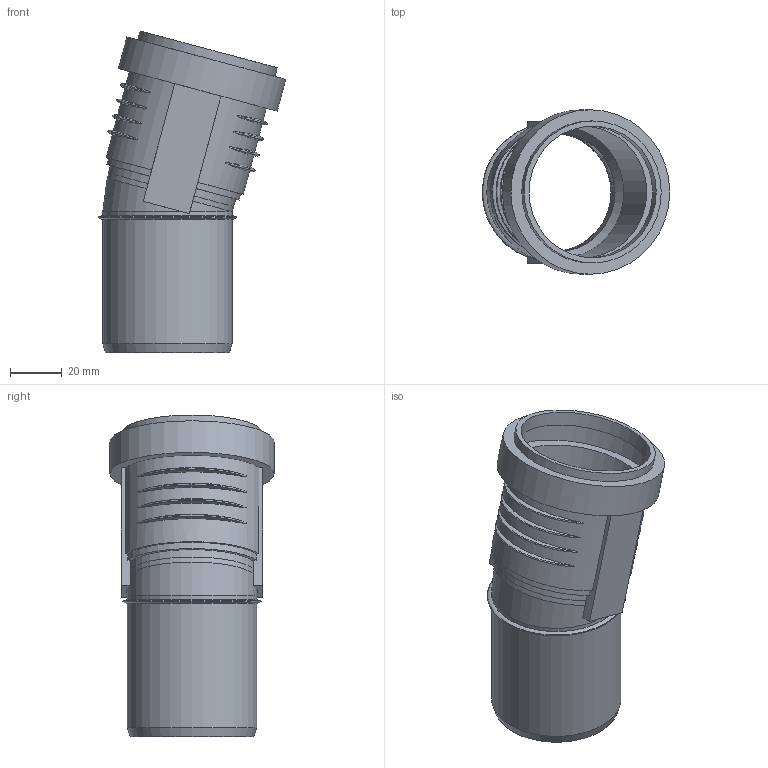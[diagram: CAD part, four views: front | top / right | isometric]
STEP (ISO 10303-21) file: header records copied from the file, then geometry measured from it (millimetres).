
FILE_DESCRIPTION(/* description */ (''),/* implementation_level */ '2;1');
FILE_NAME(/* name */ 'Z:\Geberit\Export\NewStep\390220.stp',/* time_stamp */ '2014-04-02T08:09:57+02:00',/* author */ ('ML'),/* organization */ (''),/* preprocessor_version */ 'ST-DEVELOPER v15.2',/* originating_system */ 'Autodesk Inventor 2014',/* authorisation */ '');
FILE_SCHEMA (('AUTOMOTIVE_DESIGN { 1 0 10303 214 3 1 1 }'));
Length unit declared in the file: millimetre
Products named in the file (3): 861321; 861401; 390220
Bounding box: 72.64 x 63.7 x 124.71 mm (x, y, z)
Volume: 45389.8 mm3; surface area: 46258.6 mm2
Topology: 2 solids, 2 shells, 68 faces, 162 edges, 109 vertices
Faces by surface type: torus 28, plane 19, cylinder 18, cone 2, bspline 1
Full cylindrical faces by diameter (mm): 46.15 x3, 50.15 x4, 51 x2, 55 x1, 59.7 x1, 63.7 x1
Entity records: 2630 total; most frequent: CARTESIAN_POINT 1054, DIRECTION 290, ORIENTED_EDGE 278, EDGE_CURVE 139, AXIS2_PLACEMENT_3D 127, VERTEX_POINT 106, EDGE_LOOP 103, STYLED_ITEM 70
